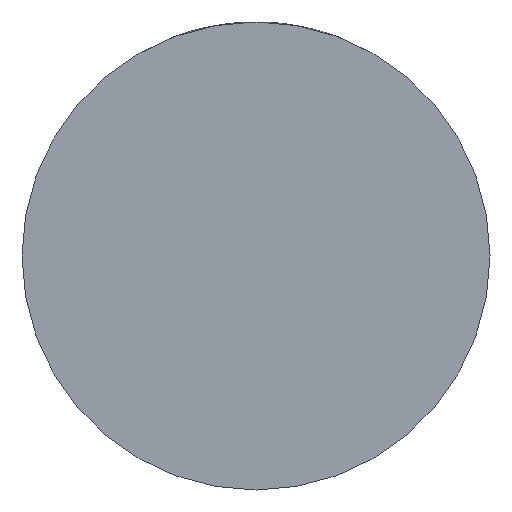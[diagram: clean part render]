
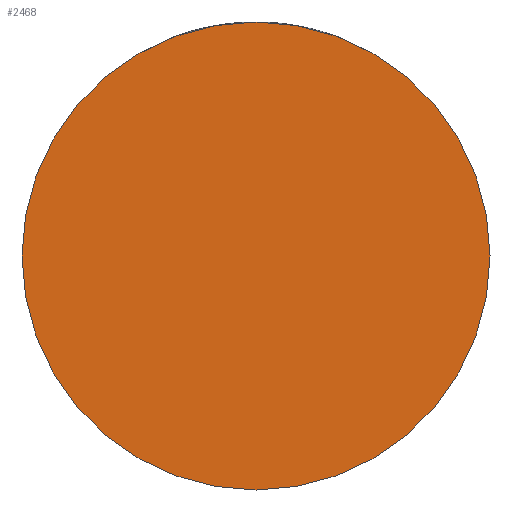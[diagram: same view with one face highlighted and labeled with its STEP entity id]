
A CAD part, front view. The second image highlights one B-rep face of the part: STEP entity #2468.
In plain terms, the highlighted planar face has unit normal (0, -1, 0).
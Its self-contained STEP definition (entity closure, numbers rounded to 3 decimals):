
#86 = PLANE ( 'NONE',  #2491 ) ;
#299 = VERTEX_POINT ( 'NONE', #3997 ) ;
#456 = CARTESIAN_POINT ( 'NONE',  ( 27.5, -20., 0. ) ) ;
#1168 = DIRECTION ( 'NONE',  ( -1., 0., 0. ) ) ;
#1297 = CIRCLE ( 'NONE', #5107, 27.5 ) ;
#1364 = VERTEX_POINT ( 'NONE', #456 ) ;
#1656 = CARTESIAN_POINT ( 'NONE',  ( 0., -20., 0. ) ) ;
#1888 = DIRECTION ( 'NONE',  ( -1., 0., 0. ) ) ;
#1980 = DIRECTION ( 'NONE',  ( 0., 1., 0. ) ) ;
#2468 = ADVANCED_FACE ( 'NONE', ( #4223 ), #86, .T. ) ;
#2491 = AXIS2_PLACEMENT_3D ( 'NONE', #4649, #5052, #3346 ) ;
#2564 = CIRCLE ( 'NONE', #2745, 27.5 ) ;
#2577 = EDGE_CURVE ( 'NONE', #1364, #299, #2564, .T. ) ;
#2635 = ORIENTED_EDGE ( 'NONE', *, *, #2577, .F. ) ;
#2716 = EDGE_LOOP ( 'NONE', ( #4684, #2635 ) ) ;
#2745 = AXIS2_PLACEMENT_3D ( 'NONE', #3084, #3489, #1888 ) ;
#3084 = CARTESIAN_POINT ( 'NONE',  ( 0., -20., 0. ) ) ;
#3346 = DIRECTION ( 'NONE',  ( 1., 0., 0. ) ) ;
#3489 = DIRECTION ( 'NONE',  ( 0., 1., 0. ) ) ;
#3997 = CARTESIAN_POINT ( 'NONE',  ( -27.5, -20., 0. ) ) ;
#4223 = FACE_OUTER_BOUND ( 'NONE', #2716, .T. ) ;
#4649 = CARTESIAN_POINT ( 'NONE',  ( 0., -20., 0. ) ) ;
#4684 = ORIENTED_EDGE ( 'NONE', *, *, #5341, .F. ) ;
#5052 = DIRECTION ( 'NONE',  ( 0., -1., 0. ) ) ;
#5107 = AXIS2_PLACEMENT_3D ( 'NONE', #1656, #1980, #1168 ) ;
#5341 = EDGE_CURVE ( 'NONE', #299, #1364, #1297, .T. ) ;
